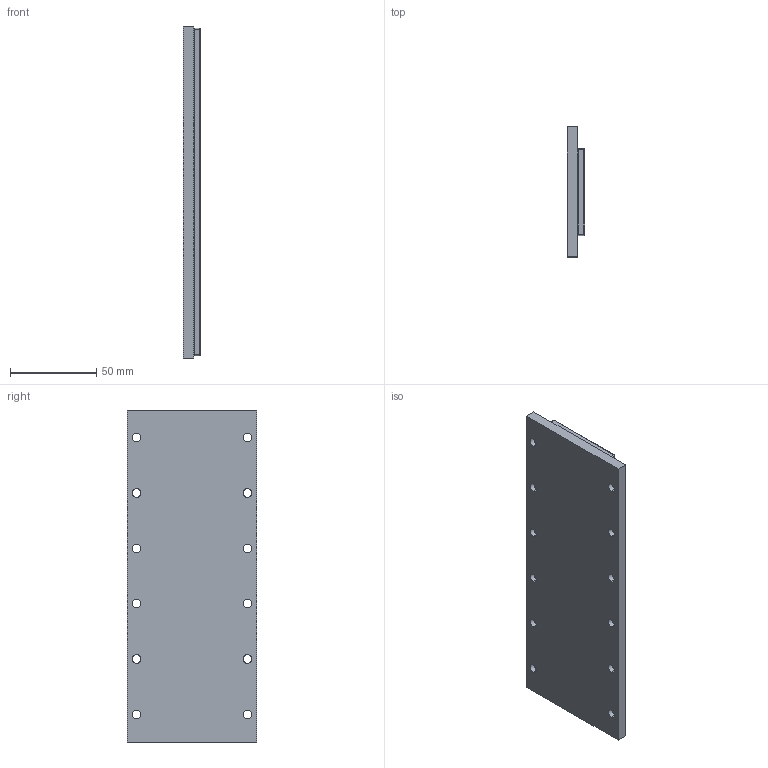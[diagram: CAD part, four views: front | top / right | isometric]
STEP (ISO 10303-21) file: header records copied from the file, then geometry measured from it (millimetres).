
FILE_DESCRIPTION (( 'STEP AP214' ), '1' );
FILE_NAME ('PIXM050-TL192-NC.STEP', '2020-07-30T01:54:39', ( '' ), ( '' ), 'SwSTEP 2.0', 'SolidWorks 2016', '' );
FILE_SCHEMA (( 'AUTOMOTIVE_DESIGN' ));
Length unit declared in the file: inch
Products named in the file (3): PIXM050-TL192-NC; 001SM050000001-CUSTOMER_TL192; 001SM050LXXX01_TL192
Assembly tree (2 placements, depth 2):
  PIXM050-TL192-NC
    001SM050LXXX01_TL192
    001SM050000001-CUSTOMER_TL192
Bounding box: 10 x 75 x 192 mm (x, y, z)
Volume: 121497.6 mm3; surface area: 53720.4 mm2
Topology: 2 solids, 2 shells, 103 faces, 242 edges, 148 vertices
Faces by surface type: cylinder 60, plane 35, bspline 8
Entity records: 4515 total; most frequent: CARTESIAN_POINT 610, DIRECTION 554, ORIENTED_EDGE 468, EDGE_CURVE 234, AXIS2_PLACEMENT_3D 220, VERTEX_POINT 148, EDGE_LOOP 140, CIRCLE 120
